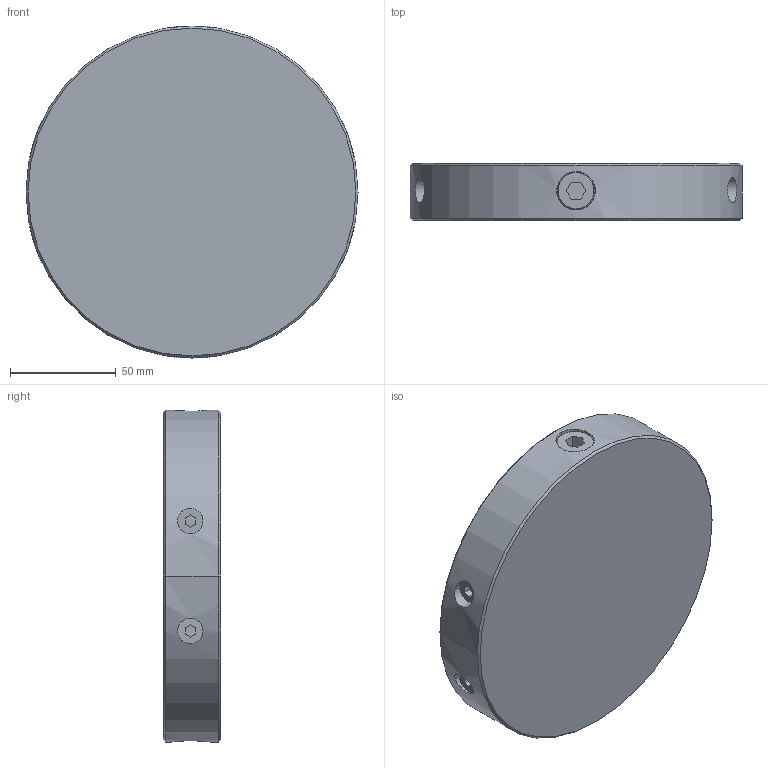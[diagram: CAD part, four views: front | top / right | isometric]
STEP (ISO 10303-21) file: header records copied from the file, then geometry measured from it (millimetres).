
FILE_DESCRIPTION (( 'STEP AP203' ), '1' );
FILE_NAME ('45903.STEP', '2016-11-08T14:27:42', ( '' ), ( '' ), 'SwSTEP 2.0', 'SolidWorks 2015', '' );
FILE_SCHEMA (( 'CONFIG_CONTROL_DESIGN' ));
Length unit declared in the file: millimetre
Products named in the file (1): 45903
Bounding box: 157 x 27 x 157 mm (x, y, z)
Volume: 472483.1 mm3; surface area: 73665.9 mm2
Topology: 7 solids, 7 shells, 168 faces, 374 edges, 228 vertices
Faces by surface type: plane 70, cylinder 54, cone 28, torus 16
Entity records: 6063 total; most frequent: CARTESIAN_POINT 2195, DIRECTION 820, ORIENTED_EDGE 748, EDGE_CURVE 374, AXIS2_PLACEMENT_3D 309, VERTEX_POINT 228, VECTOR 202, LINE 202
